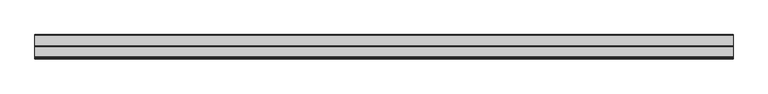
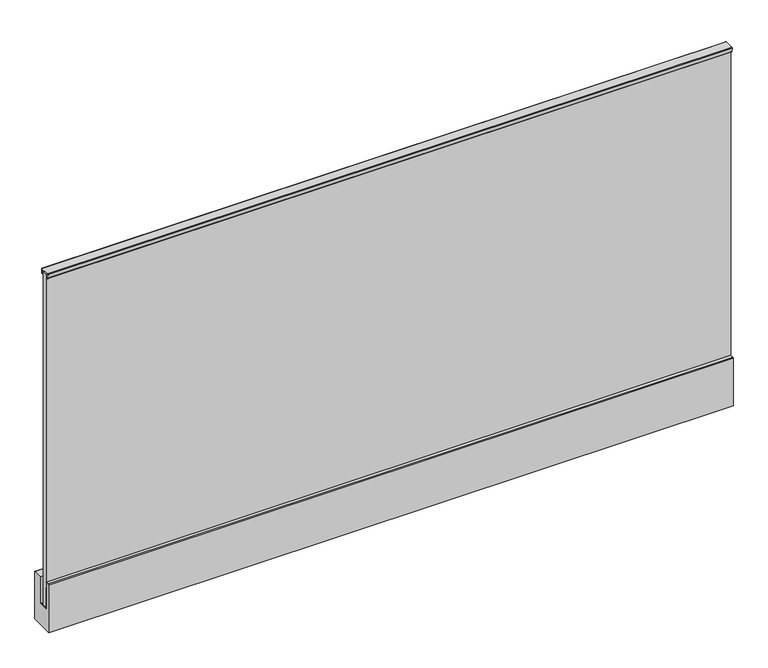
"""IFC4 building model written with IfcOpenShell, lengths in millimetres: railing geometry, Glass Railing (8+8) - Faraone - Ninfa 186 - Fascia mounted - Trapez Handrail 30."""

import ifcopenshell
import ifcopenshell.guid

model = None  # the IFC model being written
_history = None  # IfcOwnerHistory: only IFC2X3 demands one
_inside = {}  # id of a spatial element -> (the spatial element, [elements in it])
_under = {}  # id of a project, library or spatial element -> (it, [spatial elements below it])
_declared = {}  # id of a project -> (the project, [libraries it declares])
_typed = {}  # id of a type object -> (the type object, [elements of that type])
_made_of = {}  # id of a material, layer set ... -> (it, [elements and type objects made of it])


def new_model(schema):
    """Start an empty IFC model of exactly this schema.

    Asked for "IFC4X3", IfcOpenShell would pick the latest addendum, in which some entities
    have other attributes; the version numbers below select the first issue.
    IFC2X3 requires an IfcOwnerHistory on every rooted entity: one is made here for all.
    """
    global model, _history
    if schema == "IFC4X3":
        model = ifcopenshell.file(schema_version=(4, 3, 0, 0))
    else:
        model = ifcopenshell.file(schema=schema)
    _inside.clear()
    _under.clear()
    _declared.clear()
    _typed.clear()
    _made_of.clear()
    _history = None
    if model.schema == "IFC2X3":
        org = make("IfcOrganization", Name="unknown")
        user = make(
            "IfcPersonAndOrganization",
            ThePerson=make("IfcPerson", FamilyName="unknown"),
            TheOrganization=org,
        )
        app = make(
            "IfcApplication",
            ApplicationDeveloper=org,
            Version="unknown",
            ApplicationFullName="unknown",
            ApplicationIdentifier="unknown",
        )
        _history = make(
            "IfcOwnerHistory",
            OwningUser=user,
            OwningApplication=app,
            ChangeAction="ADDED",
            CreationDate=0,
        )
    return model


def make(cls, **values):
    """One entity of the class cls with the attributes given. An attribute that is None is left unset."""
    return model.create_entity(
        cls, **{name: value for name, value in values.items() if value is not None}
    )


def rooted(cls, **values):
    """An entity with a GlobalId (a new one), such as an element, a storey or a relation."""
    return make(cls, GlobalId=ifcopenshell.guid.new(), OwnerHistory=_history, **values)


def si_unit(unit_type, name, prefix=None):
    """IfcSIUnit, for example si_unit("LENGTHUNIT", "METRE", prefix="MILLI")."""
    return make("IfcSIUnit", UnitType=unit_type, Prefix=prefix, Name=name)


def assignment(units):
    """IfcUnitAssignment: the units of a project."""
    return None if units is None else make("IfcUnitAssignment", Units=units)


def point(xyz):
    """IfcCartesianPoint."""
    return None if xyz is None else make("IfcCartesianPoint", Coordinates=xyz)


def direction(xyz):
    """IfcDirection."""
    return None if xyz is None else make("IfcDirection", DirectionRatios=xyz)


def frame(location, z_axis=None, x_axis=None):
    """IfcAxis2Placement3D, a coordinate frame: its origin and axes. An axis left out is left unset."""
    return make(
        "IfcAxis2Placement3D",
        Location=point(location),
        Axis=direction(z_axis),
        RefDirection=direction(x_axis),
    )


def frame_2d(location, x_axis=None):
    """IfcAxis2Placement2D, a coordinate frame in the plane: its origin and x axis."""
    return make(
        "IfcAxis2Placement2D", Location=point(location), RefDirection=direction(x_axis)
    )


def origin():
    """The frame at (0, 0, 0) with its axes left unset."""
    return frame((0.0, 0.0, 0.0))


def place(relative_to, where):
    """IfcLocalPlacement: puts the frame where relative to a parent placement (None: the world)."""
    return make(
        "IfcLocalPlacement", PlacementRelTo=relative_to, RelativePlacement=where
    )


def context(
    kind, dimensions, precision=None, world=None, true_north=None, identifier=None
):
    """IfcGeometricRepresentationContext, for example the 3D "Model" context."""
    return make(
        "IfcGeometricRepresentationContext",
        ContextIdentifier=identifier,
        ContextType=kind,
        CoordinateSpaceDimension=dimensions,
        Precision=precision,
        WorldCoordinateSystem=world,
        TrueNorth=true_north,
    )


def project(units=None, contexts=None):
    """IfcProject with its units and contexts."""
    return rooted(
        "IfcProject",
        Name="project",
        RepresentationContexts=contexts,
        UnitsInContext=assignment(units),
    )


def spatial(cls, under=None, at=None, **own):
    """A site, building, storey or space (cls), placed at a placement, below another one or the project."""
    s = rooted(cls, ObjectPlacement=at, **own)
    if under is not None:
        _under.setdefault(under.id(), (under, []))[1].append(s)
    return s


def polyline(points):
    """IfcPolyline through the points."""
    return make("IfcPolyline", Points=[point(p) for p in points])


def circle_curve(where, radius):
    """IfcCircle in the frame where."""
    return make("IfcCircle", Position=where, Radius=radius)


def trimmed(basis, trim1, trim2, sense, master):
    """IfcTrimmedCurve: the piece of a basis curve between two trims."""
    return make(
        "IfcTrimmedCurve",
        BasisCurve=basis,
        Trim1=trim1,
        Trim2=trim2,
        SenseAgreement=sense,
        MasterRepresentation=master,
    )


def segment(curve, same_sense, transition):
    """IfcCompositeCurveSegment."""
    return make(
        "IfcCompositeCurveSegment",
        Transition=transition,
        SameSense=same_sense,
        ParentCurve=curve,
    )


def composite_curve(segments, self_intersect=None):
    """IfcCompositeCurve: segments joined end to end."""
    return make("IfcCompositeCurve", Segments=segments, SelfIntersect=self_intersect)


def outline(outer, holes=None, kind="AREA"):
    """IfcArbitraryClosedProfileDef: a profile drawn as a closed curve; with holes, ...WithVoids."""
    if holes is None:
        return make("IfcArbitraryClosedProfileDef", ProfileType=kind, OuterCurve=outer)
    return make(
        "IfcArbitraryProfileDefWithVoids",
        ProfileType=kind,
        OuterCurve=outer,
        InnerCurves=holes,
    )


def extrude(swept, where, along, depth):
    """IfcExtrudedAreaSolid: the profile swept, set in the frame where, extruded along a direction by depth."""
    return make(
        "IfcExtrudedAreaSolid",
        SweptArea=swept,
        Position=where,
        ExtrudedDirection=direction(along),
        Depth=depth,
    )


def shape(context_of_items, identifier, shape_type, items):
    """IfcShapeRepresentation: the items that make up one representation, for example the "Body"."""
    return make(
        "IfcShapeRepresentation",
        ContextOfItems=context_of_items,
        RepresentationIdentifier=identifier,
        RepresentationType=shape_type,
        Items=items,
    )


def source(mapping_origin, context_of_items, identifier, shape_type, items):
    """IfcRepresentationMap: a shape defined once, which mapped items show again and again."""
    return make(
        "IfcRepresentationMap",
        MappingOrigin=mapping_origin,
        MappedRepresentation=shape(context_of_items, identifier, shape_type, items),
    )


def transform(
    local_origin,
    x_axis=None,
    y_axis=None,
    z_axis=None,
    scale=None,
    scale2=None,
    scale3=None,
    uniform=True,
):
    """IfcCartesianTransformationOperator3D, or its non-uniform kind. x_axis, y_axis, z_axis: its Axis1, 2, 3."""
    if uniform:
        return make(
            "IfcCartesianTransformationOperator3D",
            Axis1=direction(x_axis),
            Axis2=direction(y_axis),
            LocalOrigin=point(local_origin),
            Scale=scale,
            Axis3=direction(z_axis),
        )
    return make(
        "IfcCartesianTransformationOperator3DnonUniform",
        Axis1=direction(x_axis),
        Axis2=direction(y_axis),
        LocalOrigin=point(local_origin),
        Scale=scale,
        Axis3=direction(z_axis),
        Scale2=scale2,
        Scale3=scale3,
    )


def mapped(mapping_source, mapping_target):
    """IfcMappedItem: shows the shape of a source again, moved by a transform."""
    return make(
        "IfcMappedItem", MappingSource=mapping_source, MappingTarget=mapping_target
    )


def made_of(thing, what):
    """Note that an element or type object is made of a material, layer set ...; save() writes the relation."""
    if what is not None:
        _made_of.setdefault(what.id(), (what, []))[1].append(thing)
    return thing


def element(
    cls,
    number,
    at=None,
    inside=None,
    cuts=None,
    type_object=None,
    material=None,
    context=None,
    identifier="Body",
    shape_type=None,
    held_by="IfcProductDefinitionShape",
    body=None,
    shapes=None,
    **own,
):
    """One element of the class cls, such as IfcWall. Its Tag is "e" and its number.

    at: its placement. inside: the storey or other place that contains it. cuts: it is an
    opening in that element (IfcRelVoidsElement). A single representation is given by context,
    identifier, shape_type and body (its items); several are given by shapes. held_by: the class
    of the entity that holds the representations. save() writes the other relations.
    """
    e = rooted(cls, Tag="e%d" % number, ObjectPlacement=at, **own)
    if body is not None:
        shapes = [shape(context, identifier, shape_type, body)]
    if shapes is not None:
        e.Representation = make(held_by, Representations=shapes)
    if inside is not None:
        _inside.setdefault(inside.id(), (inside, []))[1].append(e)
    if cuts is not None:
        rooted(
            "IfcRelVoidsElement", RelatingBuildingElement=cuts, RelatedOpeningElement=e
        )
    if type_object is not None:
        _typed.setdefault(type_object.id(), (type_object, []))[1].append(e)
    return made_of(e, material)


def aggregate(whole, parts):
    """IfcRelAggregates: a whole, such as a stair, and the parts it consists of."""
    return rooted("IfcRelAggregates", RelatingObject=whole, RelatedObjects=parts)


def save(model, path):
    """Write the relations noted so far, then the file.

    IfcRelAggregates (storeys below a building ...), IfcRelContainedInSpatialStructure (elements
    in a storey), IfcRelDefinesByType, IfcRelAssociatesMaterial and IfcRelDeclares: one each for
    every whole, place, type object, material and project.
    """
    for whole, parts in _under.values():
        aggregate(whole, parts)
    for where, things in _inside.values():
        rooted(
            "IfcRelContainedInSpatialStructure",
            RelatedElements=things,
            RelatingStructure=where,
        )
    for kind, things in _typed.values():
        rooted("IfcRelDefinesByType", RelatedObjects=things, RelatingType=kind)
    for what, things in _made_of.values():
        rooted("IfcRelAssociatesMaterial", RelatedObjects=things, RelatingMaterial=what)
    for by, libraries in _declared.values():
        rooted("IfcRelDeclares", RelatingContext=by, RelatedDefinitions=libraries)
    model.write(path)


def railing_f1bae4d5(model_context):
    return source(origin(), model_context, "Body", "SweptSolid", [
        extrude(outline(composite_curve([segment(polyline([(-4403.8085636, 1107.5126187), (-4372.3946286, 1107.5126187)]), True, "CONTINUOUS"), segment(trimmed(circle_curve(frame_2d((-4372.3946286, 1105.3563017)), 2.156317), [point((-4372.3946286, 1107.5126187))], [point((-4370.2594626, 1105.0550222))], False, "CARTESIAN"), True, "CONTINUOUS"), segment(polyline([(-4370.2594626, 1105.0550222), (-4372.2353019, 1091.0522601)]), True, "CONTINUOUS"), segment(trimmed(circle_curve(frame_2d((-4373.6536451, 1091.2523933)), 1.4323933), [point((-4372.2353019, 1091.0522601))], [point((-4373.6536451, 1089.82))], False, "CARTESIAN"), True, "CONTINUOUS"), segment(polyline([(-4373.6536451, 1089.82), (-4375.3515961, 1089.82), (-4375.3515961, 1102.5586855), (-4400.8515961, 1102.5586855), (-4400.8515961, 1089.82), (-4402.5495472, 1089.82)]), True, "CONTINUOUS"), segment(trimmed(circle_curve(frame_2d((-4402.5495472, 1091.2523933)), 1.4323933), [point((-4402.5495472, 1089.82))], [point((-4403.9678903, 1091.0522601))], False, "CARTESIAN"), True, "CONTINUOUS"), segment(polyline([(-4403.9678903, 1091.0522601), (-4405.9437296, 1105.0550222)]), True, "CONTINUOUS"), segment(trimmed(circle_curve(frame_2d((-4403.8085636, 1105.3563017)), 2.156317), [point((-4405.9437296, 1105.0550222))], [point((-4403.8085636, 1107.5126187))], False, "CARTESIAN"), True, "CONTINUOUS")], self_intersect=False)), frame((4362.6376845, 0.0, 0.0), z_axis=(1.0, 0.0, 0.0), x_axis=(0.0, 1.0, 0.0)), (0.0, 0.0, 1.0), 2320.0),
        extrude(outline(polyline([(-4396.5315961, -92.36), (-4396.5315961, 1100.56), (-4388.6315961, 1100.56), (-4388.6315961, -91.56), (-4387.6315961, -91.56), (-4387.6315961, 1100.56), (-4379.7315961, 1100.56), (-4379.7315961, -92.36), (-4396.5315961, -92.36)])), frame((4362.6376845, 0.0, 0.0), z_axis=(1.0, 0.0, 0.0), x_axis=(0.0, 1.0, 0.0)), (0.0, 0.0, 1.0), 2320.0),
        extrude(outline(composite_curve([segment(polyline([(-4408.4041657, -0.0006325), (-4398.4997252, -0.0006325), (-4398.4997252, -95.3393625), (-4366.7234671, -95.3393625), (-4366.7234671, -0.0006325), (-4334.2427312, -0.0006325)]), True, "CONTINUOUS"), segment(trimmed(circle_curve(frame_2d((-4334.2427312, -3.0621312)), 3.0614987), [point((-4334.2427312, -0.0006325))], [point((-4331.1812325, -3.0621312))], False, "CARTESIAN"), True, "CONTINUOUS"), segment(polyline([(-4331.1812325, -3.0621312), (-4331.1812325, -173.21), (-4411.5247659, -173.21), (-4411.5247659, -3.1212327)]), True, "CONTINUOUS"), segment(trimmed(circle_curve(frame_2d((-4408.4041657, -3.1212327)), 3.1206002), [point((-4411.5247659, -3.1212327))], [point((-4408.4041657, -0.0006325))], False, "CARTESIAN"), True, "CONTINUOUS")], self_intersect=False)), frame((4362.6376845, 0.0, 0.0), z_axis=(1.0, 0.0, 0.0), x_axis=(0.0, 1.0, 0.0)), (0.0, 0.0, 1.0), 2320.0),
        extrude(outline(polyline([(-4398.5035109, -95.34), (-4398.5035109, -20.1108016), (-4396.5295629, -20.1108016), (-4396.5295629, -92.3609041), (-4375.0196813, -92.3609041), (-4375.0196813, -95.34), (-4398.5035109, -95.34)])), frame((4362.6376845, 0.0, 0.0), z_axis=(1.0, 0.0, 0.0), x_axis=(0.0, 1.0, 0.0)), (0.0, 0.0, 1.0), 2320.0),
        extrude(outline(polyline([(4362.6376845, -4400.8515961), (4362.6376845, -4396.4515961), (6682.6376845, -4396.4515961), (6682.6376845, -4400.8515961), (4362.6376845, -4400.8515961)])), frame((0.0, 0.0, 1089.82), z_axis=(0.0, 0.0, 1.0), x_axis=(1.0, 0.0, 0.0)), (0.0, 0.0, 1.0), 10.74),
        extrude(outline(polyline([(4362.6376845, -4379.7315961), (4362.6376845, -4375.3315961), (6682.6376845, -4375.3315961), (6682.6376845, -4379.7315961), (4362.6376845, -4379.7315961)])), frame((0.0, 0.0, 1089.82), z_axis=(0.0, 0.0, 1.0), x_axis=(1.0, 0.0, 0.0)), (0.0, 0.0, 1.0), 10.74),
        extrude(outline(polyline([(4362.6376845, -4398.9315961), (4362.6376845, -4377.4315961), (6682.6376845, -4377.4315961), (6682.6376845, -4398.9315961), (4362.6376845, -4398.9315961)])), frame((0.0, 0.0, 1100.56), z_axis=(0.0, 0.0, 1.0), x_axis=(1.0, 0.0, 0.0)), (0.0, 0.0, 1.0), 2.0),
    ])


if __name__ == "__main__":
    model = new_model("IFC4")
    model_context = context("Model", 3, world=origin())
    ifc_project = project(units=[si_unit("LENGTHUNIT", "METRE", prefix="MILLI")], contexts=[model_context])
    site = spatial("IfcSite", under=ifc_project)
    building = spatial("IfcBuilding", under=site)
    placement = place(None, origin())
    railing_shape = railing_f1bae4d5(model_context)
    element("IfcRailing", 1, ObjectType="Glass Railing (8+8) - Faraone - Ninfa 186 - Fascia mounted - Trapez Handrail 30", at=placement, inside=building, context=model_context, shape_type="MappedRepresentation", body=[
        mapped(railing_shape, transform((0.0, 0.0, 0.0), x_axis=(1.0, 0.0, 0.0), y_axis=(0.0, 1.0, 0.0), z_axis=(0.0, 0.0, 1.0))),
    ])
    save(model, "model.ifc")
